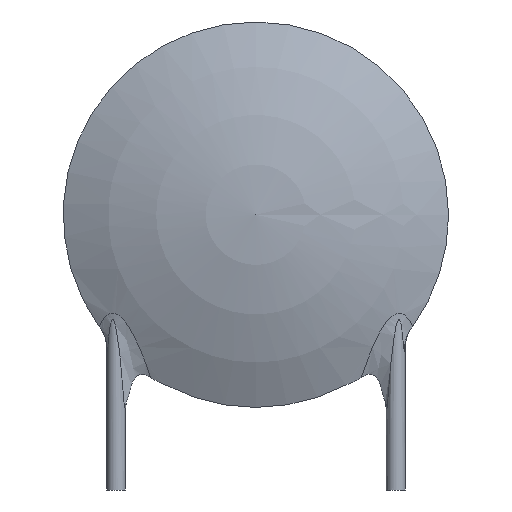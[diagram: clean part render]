
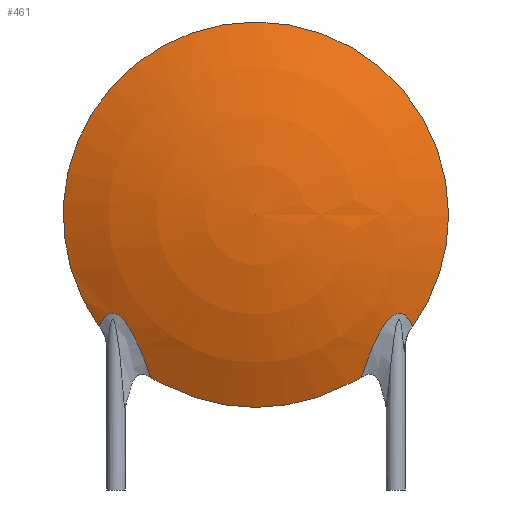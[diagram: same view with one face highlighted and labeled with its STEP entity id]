
A CAD part, front view. The second image highlights one B-rep face of the part: STEP entity #461.
In plain terms, the highlighted spherical face has radius 14.68 mm.
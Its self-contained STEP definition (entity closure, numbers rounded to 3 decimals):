
#200 = EDGE_CURVE('',#201,#203,#205,.T.);
#201 = VERTEX_POINT('',#202);
#202 = CARTESIAN_POINT('',(-5.413,-0.019,-3.863));
#203 = VERTEX_POINT('',#204);
#204 = CARTESIAN_POINT('',(0.,-0.019,6.65));
#205 = CIRCLE('',#206,6.65);
#206 = AXIS2_PLACEMENT_3D('',#207,#208,#209);
#207 = CARTESIAN_POINT('',(0.,-0.019,0.));
#208 = DIRECTION('',(0.,1.,0.));
#209 = DIRECTION('',(0.,0.,1.));
#271 = VERTEX_POINT('',#272);
#272 = CARTESIAN_POINT('',(-3.107,-0.019,-5.88));
#285 = VERTEX_POINT('',#286);
#286 = CARTESIAN_POINT('',(-3.34,0.,
    -5.793));
#293 = EDGE_CURVE('',#285,#271,#294,.T.);
#294 = B_SPLINE_CURVE_WITH_KNOTS('',3,(#295,#296,#297,#298),
  .UNSPECIFIED.,.F.,.F.,(4,4),(0.,0.),
  .PIECEWISE_BEZIER_KNOTS.);
#295 = CARTESIAN_POINT('',(-3.34,0.,
    -5.793));
#296 = CARTESIAN_POINT('',(-3.26,-0.012,
    -5.812));
#297 = CARTESIAN_POINT('',(-3.181,-0.019,-5.841));
#298 = CARTESIAN_POINT('',(-3.107,-0.019,-5.88));
#319 = VERTEX_POINT('',#320);
#320 = CARTESIAN_POINT('',(3.107,-0.019,-5.88));
#330 = EDGE_CURVE('',#319,#331,#333,.T.);
#331 = VERTEX_POINT('',#332);
#332 = CARTESIAN_POINT('',(3.34,0.,
    -5.793));
#333 = B_SPLINE_CURVE_WITH_KNOTS('',3,(#334,#335,#336,#337),
  .UNSPECIFIED.,.F.,.F.,(4,4),(0.,0.),
  .PIECEWISE_BEZIER_KNOTS.);
#334 = CARTESIAN_POINT('',(3.107,-0.019,-5.88));
#335 = CARTESIAN_POINT('',(3.181,-0.019,-5.84));
#336 = CARTESIAN_POINT('',(3.259,-0.013,
    -5.812));
#337 = CARTESIAN_POINT('',(3.34,0.,
    -5.793));
#363 = EDGE_CURVE('',#203,#364,#366,.T.);
#364 = VERTEX_POINT('',#365);
#365 = CARTESIAN_POINT('',(6.65,-0.019,0.));
#366 = CIRCLE('',#367,6.65);
#367 = AXIS2_PLACEMENT_3D('',#368,#369,#370);
#368 = CARTESIAN_POINT('',(0.,-0.019,0.));
#369 = DIRECTION('',(0.,1.,0.));
#370 = DIRECTION('',(0.,0.,1.));
#372 = EDGE_CURVE('',#364,#373,#375,.T.);
#373 = VERTEX_POINT('',#374);
#374 = CARTESIAN_POINT('',(5.413,-0.019,-3.863));
#375 = CIRCLE('',#376,6.65);
#376 = AXIS2_PLACEMENT_3D('',#377,#378,#379);
#377 = CARTESIAN_POINT('',(0.,-0.019,0.));
#378 = DIRECTION('',(0.,1.,0.));
#379 = DIRECTION('',(0.,0.,1.));
#449 = EDGE_CURVE('',#319,#271,#450,.T.);
#450 = CIRCLE('',#451,6.65);
#451 = AXIS2_PLACEMENT_3D('',#452,#453,#454);
#452 = CARTESIAN_POINT('',(0.,-0.019,0.));
#453 = DIRECTION('',(0.,1.,0.));
#454 = DIRECTION('',(0.,0.,1.));
#461 = ADVANCED_FACE('',(#462),#542,.T.);
#462 = FACE_BOUND('',#463,.T.);
#463 = EDGE_LOOP('',(#464,#487,#494,#495,#496,#497,#506,#527,#528,#539,
    #540,#541));
#464 = ORIENTED_EDGE('',*,*,#465,.T.);
#465 = EDGE_CURVE('',#201,#466,#468,.T.);
#466 = VERTEX_POINT('',#467);
#467 = CARTESIAN_POINT('',(-3.636,0.,
    -5.613));
#468 = B_SPLINE_CURVE_WITH_KNOTS('',3,(#469,#470,#471,#472,#473,#474,
    #475,#476,#477,#478,#479,#480,#481,#482,#483,#484,#485,#486),
  .UNSPECIFIED.,.F.,.F.,(4,2,2,2,2,2,2,2,4),(0.,0.,
    0.,0.,0.001,
    0.001,0.001,0.001,
    0.002),.UNSPECIFIED.);
#469 = CARTESIAN_POINT('',(-5.413,-0.019,-3.863));
#470 = CARTESIAN_POINT('',(-5.358,-0.078,
    -3.74));
#471 = CARTESIAN_POINT('',(-5.294,-0.137,
    -3.62));
#472 = CARTESIAN_POINT('',(-5.157,-0.23,
    -3.474));
#473 = CARTESIAN_POINT('',(-5.104,-0.261,
    -3.432));
#474 = CARTESIAN_POINT('',(-4.977,-0.321,
    -3.387));
#475 = CARTESIAN_POINT('',(-4.904,-0.347,
    -3.389));
#476 = CARTESIAN_POINT('',(-4.771,-0.382,
    -3.44));
#477 = CARTESIAN_POINT('',(-4.711,-0.392,
    -3.484));
#478 = CARTESIAN_POINT('',(-4.604,-0.403,
    -3.583));
#479 = CARTESIAN_POINT('',(-4.556,-0.405,
    -3.638));
#480 = CARTESIAN_POINT('',(-4.422,-0.402,
    -3.809));
#481 = CARTESIAN_POINT('',(-4.346,-0.391,
    -3.934));
#482 = CARTESIAN_POINT('',(-4.134,-0.345,
    -4.311));
#483 = CARTESIAN_POINT('',(-4.018,-0.295,
    -4.569));
#484 = CARTESIAN_POINT('',(-3.808,-0.168,
    -5.088));
#485 = CARTESIAN_POINT('',(-3.716,-0.091,
    -5.35));
#486 = CARTESIAN_POINT('',(-3.636,0.,
    -5.613));
#487 = ORIENTED_EDGE('',*,*,#488,.T.);
#488 = EDGE_CURVE('',#466,#285,#489,.T.);
#489 = CIRCLE('',#490,6.687);
#490 = AXIS2_PLACEMENT_3D('',#491,#492,#493);
#491 = CARTESIAN_POINT('',(0.,0.,0.));
#492 = DIRECTION('',(0.,-1.,0.));
#493 = DIRECTION('',(0.,0.,1.));
#494 = ORIENTED_EDGE('',*,*,#293,.T.);
#495 = ORIENTED_EDGE('',*,*,#449,.F.);
#496 = ORIENTED_EDGE('',*,*,#330,.T.);
#497 = ORIENTED_EDGE('',*,*,#498,.T.);
#498 = EDGE_CURVE('',#331,#499,#501,.T.);
#499 = VERTEX_POINT('',#500);
#500 = CARTESIAN_POINT('',(3.636,0.,
    -5.613));
#501 = CIRCLE('',#502,6.687);
#502 = AXIS2_PLACEMENT_3D('',#503,#504,#505);
#503 = CARTESIAN_POINT('',(0.,0.,0.));
#504 = DIRECTION('',(0.,-1.,0.));
#505 = DIRECTION('',(0.,0.,1.));
#506 = ORIENTED_EDGE('',*,*,#507,.T.);
#507 = EDGE_CURVE('',#499,#373,#508,.T.);
#508 = B_SPLINE_CURVE_WITH_KNOTS('',3,(#509,#510,#511,#512,#513,#514,
    #515,#516,#517,#518,#519,#520,#521,#522,#523,#524,#525,#526),
  .UNSPECIFIED.,.F.,.F.,(4,2,2,2,2,2,2,2,4),(0.,
    0.,0.001,0.001,
    0.001,0.001,0.001,
    0.002,0.002),.UNSPECIFIED.);
#509 = CARTESIAN_POINT('',(3.636,0.,
    -5.613));
#510 = CARTESIAN_POINT('',(3.716,-0.091,
    -5.349));
#511 = CARTESIAN_POINT('',(3.809,-0.169,
    -5.085));
#512 = CARTESIAN_POINT('',(4.021,-0.296,
    -4.56));
#513 = CARTESIAN_POINT('',(4.14,-0.347,
    -4.299));
#514 = CARTESIAN_POINT('',(4.353,-0.393,-3.922
    ));
#515 = CARTESIAN_POINT('',(4.429,-0.403,
    -3.799));
#516 = CARTESIAN_POINT('',(4.564,-0.404,
    -3.628));
#517 = CARTESIAN_POINT('',(4.613,-0.402,
    -3.573));
#518 = CARTESIAN_POINT('',(4.721,-0.39,-3.477
    ));
#519 = CARTESIAN_POINT('',(4.781,-0.38,
    -3.434));
#520 = CARTESIAN_POINT('',(4.915,-0.343,
    -3.387));
#521 = CARTESIAN_POINT('',(4.987,-0.317,
    -3.388));
#522 = CARTESIAN_POINT('',(5.11,-0.258,-3.436
    ));
#523 = CARTESIAN_POINT('',(5.162,-0.226,
    -3.479));
#524 = CARTESIAN_POINT('',(5.297,-0.135,
    -3.625));
#525 = CARTESIAN_POINT('',(5.359,-0.077,
    -3.742));
#526 = CARTESIAN_POINT('',(5.413,-0.019,-3.863));
#527 = ORIENTED_EDGE('',*,*,#372,.F.);
#528 = ORIENTED_EDGE('',*,*,#529,.F.);
#529 = EDGE_CURVE('',#530,#364,#532,.T.);
#530 = VERTEX_POINT('',#531);
#531 = CARTESIAN_POINT('',(0.,-1.612,0.));
#532 = B_SPLINE_CURVE_WITH_KNOTS('',5,(#533,#534,#535,#536,#537,#538),
  .UNSPECIFIED.,.F.,.F.,(6,6),(-1.571,-1.101),
  .PIECEWISE_BEZIER_KNOTS.);
#533 = CARTESIAN_POINT('',(0.,-1.612,0.)
  );
#534 = CARTESIAN_POINT('',(1.38,-1.612,0.));
#535 = CARTESIAN_POINT('',(2.761,-1.449,
    0.));
#536 = CARTESIAN_POINT('',(4.115,-1.125,
    0.));
#537 = CARTESIAN_POINT('',(5.419,-0.644,
    0.));
#538 = CARTESIAN_POINT('',(6.65,-0.019,0.));
#539 = ORIENTED_EDGE('',*,*,#529,.T.);
#540 = ORIENTED_EDGE('',*,*,#363,.F.);
#541 = ORIENTED_EDGE('',*,*,#200,.F.);
#542 = SPHERICAL_SURFACE('',#543,14.68);
#543 = AXIS2_PLACEMENT_3D('',#544,#545,#546);
#544 = CARTESIAN_POINT('',(0.,13.069,0.));
#545 = DIRECTION('',(0.,1.,0.));
#546 = DIRECTION('',(1.,0.,0.));
